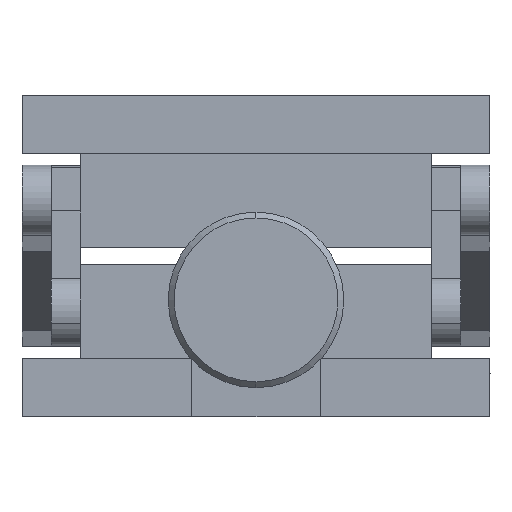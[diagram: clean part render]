
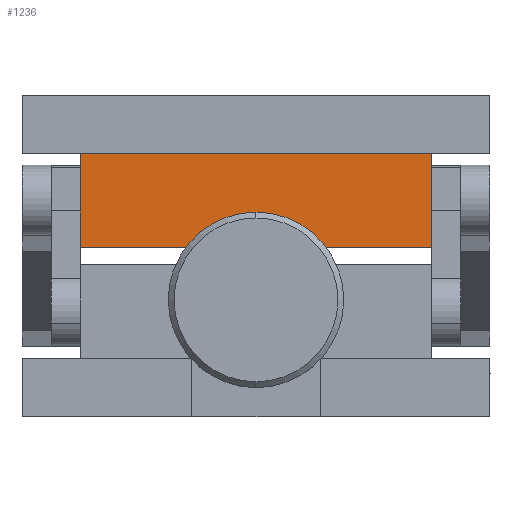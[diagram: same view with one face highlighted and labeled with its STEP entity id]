
A CAD part, left-side view. The second image highlights one B-rep face of the part: STEP entity #1236.
In plain terms, the highlighted planar face has unit normal (-1, 0, 0) as drawn and (0, 0, -1) by its records, which use the part's own axes.
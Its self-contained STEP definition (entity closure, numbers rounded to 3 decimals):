
#69 = DIRECTION ( 'NONE',  ( 1., 0., 0. ) ) ;
#405 = LINE ( 'NONE', #12880, #10332 ) ;
#426 = ORIENTED_EDGE ( 'NONE', *, *, #737, .T. ) ;
#586 = ORIENTED_EDGE ( 'NONE', *, *, #5512, .T. ) ;
#737 = EDGE_CURVE ( 'NONE', #12297, #7921, #12236, .T. ) ;
#1236 = ADVANCED_FACE ( 'NONE', ( #12358 ), #3080, .F. ) ;
#1367 = ORIENTED_EDGE ( 'NONE', *, *, #9435, .T. ) ;
#2453 = VERTEX_POINT ( 'NONE', #6089 ) ;
#2898 = DIRECTION ( 'NONE',  ( -1., 0., 0. ) ) ;
#3080 = PLANE ( 'NONE',  #5826 ) ;
#3520 = EDGE_LOOP ( 'NONE', ( #1367, #426, #8860, #586 ) ) ;
#4256 = VECTOR ( 'NONE', #8437, 1000. ) ;
#5328 = CARTESIAN_POINT ( 'NONE',  ( -12.5, 0., -104. ) ) ;
#5512 = EDGE_CURVE ( 'NONE', #2453, #7984, #6584, .T. ) ;
#5613 = CARTESIAN_POINT ( 'NONE',  ( 30., 8., -104. ) ) ;
#5826 = AXIS2_PLACEMENT_3D ( 'NONE', #5328, #12618, #69 ) ;
#6089 = CARTESIAN_POINT ( 'NONE',  ( -30., 8., -104. ) ) ;
#6584 = LINE ( 'NONE', #7534, #9176 ) ;
#7376 = CARTESIAN_POINT ( 'NONE',  ( -30., -8., -104. ) ) ;
#7534 = CARTESIAN_POINT ( 'NONE',  ( 30., 8., -104. ) ) ;
#7921 = VERTEX_POINT ( 'NONE', #7376 ) ;
#7984 = VERTEX_POINT ( 'NONE', #5613 ) ;
#8437 = DIRECTION ( 'NONE',  ( 0., 1., 0. ) ) ;
#8860 = ORIENTED_EDGE ( 'NONE', *, *, #12247, .T. ) ;
#9176 = VECTOR ( 'NONE', #11704, 1000. ) ;
#9435 = EDGE_CURVE ( 'NONE', #7984, #12297, #405, .T. ) ;
#10134 = CARTESIAN_POINT ( 'NONE',  ( 30., -8., -104. ) ) ;
#10332 = VECTOR ( 'NONE', #10712, 1000. ) ;
#10712 = DIRECTION ( 'NONE',  ( 0., -1., 0. ) ) ;
#11449 = LINE ( 'NONE', #13491, #4256 ) ;
#11704 = DIRECTION ( 'NONE',  ( 1., 0., 0. ) ) ;
#12236 = LINE ( 'NONE', #10134, #12526 ) ;
#12247 = EDGE_CURVE ( 'NONE', #7921, #2453, #11449, .T. ) ;
#12297 = VERTEX_POINT ( 'NONE', #12654 ) ;
#12358 = FACE_OUTER_BOUND ( 'NONE', #3520, .T. ) ;
#12526 = VECTOR ( 'NONE', #2898, 1000. ) ;
#12618 = DIRECTION ( 'NONE',  ( 0., 0., 1. ) ) ;
#12654 = CARTESIAN_POINT ( 'NONE',  ( 30., -8., -104. ) ) ;
#12880 = CARTESIAN_POINT ( 'NONE',  ( 30., 8., -104. ) ) ;
#13491 = CARTESIAN_POINT ( 'NONE',  ( -30., 8., -104. ) ) ;
